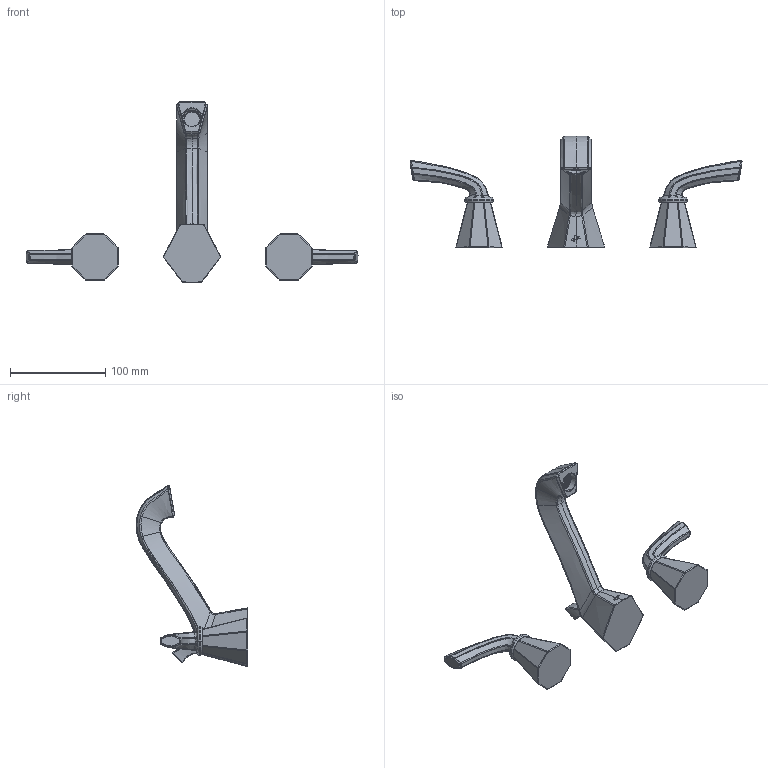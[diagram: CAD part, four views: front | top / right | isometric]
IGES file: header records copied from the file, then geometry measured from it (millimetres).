
Start section:  PTC IGES file: sku_ts447.igs
Global section: file name: sku_ts447.igs; native system: Pro/ENGINEER by Parametric Technology Corporation; preprocessor: 2006460; author: 9dutterb; organization: Unknown; date: 20071102.163038; units: inch
Bounding box: 347.8 x 117.03 x 189.91 mm (x, y, z)
Surface area: 57620.6 mm2 (no closed solid volume)
Topology: 0 solids, 0 shells, 441 faces, 2062 edges, 2062 vertices
Faces by surface type: bspline 359, revolution 78, extrusion 4
